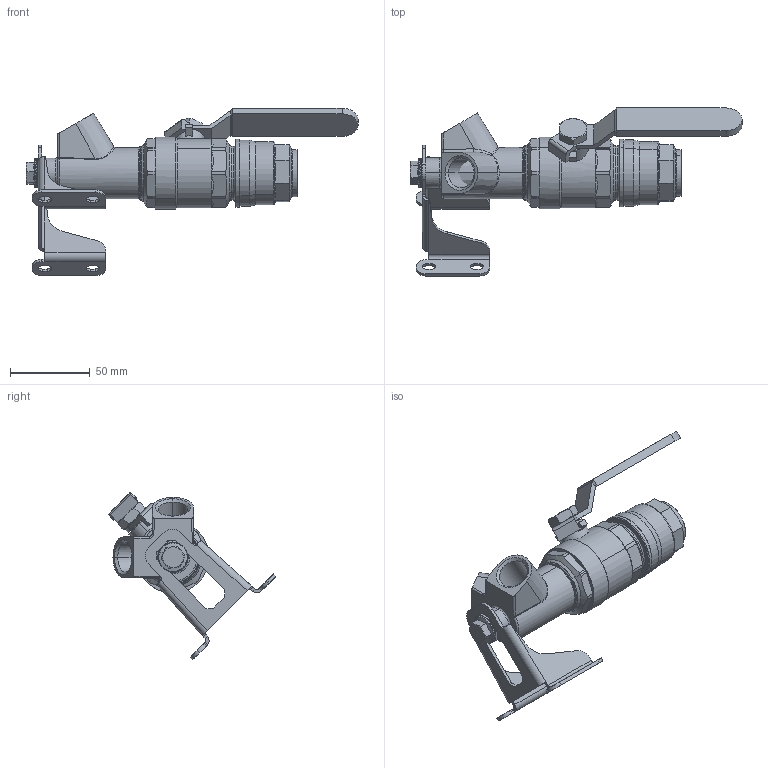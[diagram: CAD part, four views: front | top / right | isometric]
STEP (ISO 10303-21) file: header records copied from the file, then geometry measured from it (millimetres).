
FILE_DESCRIPTION (( 'STEP AP214' ), '1' );
FILE_NAME ('9066400002.STEP', '2018-05-30T07:50:57', ( '' ), ( '' ), 'SwSTEP 2.0', 'SolidWorks 2016', '' );
FILE_SCHEMA (( 'AUTOMOTIVE_DESIGN' ));
Length unit declared in the file: millimetre
Products named in the file (1): 9066400002
Bounding box: 207.79 x 105.11 x 104.83 mm (x, y, z)
Volume: 197025.8 mm3; surface area: 55646.7 mm2
Topology: 4 solids, 4 shells, 536 faces, 1416 edges, 892 vertices
Faces by surface type: plane 263, cylinder 131, cone 70, torus 51, bspline 21
Entity records: 24599 total; most frequent: CARTESIAN_POINT 5923, ORIENTED_EDGE 2820, DIRECTION 2551, EDGE_CURVE 1410, AXIS2_PLACEMENT_3D 911, VERTEX_POINT 892, LINE 729, VECTOR 729
